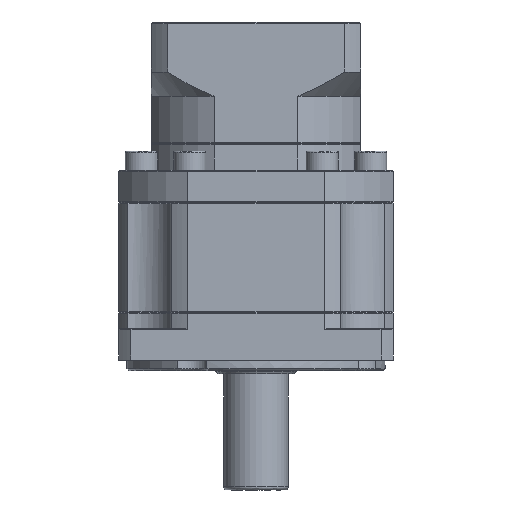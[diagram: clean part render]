
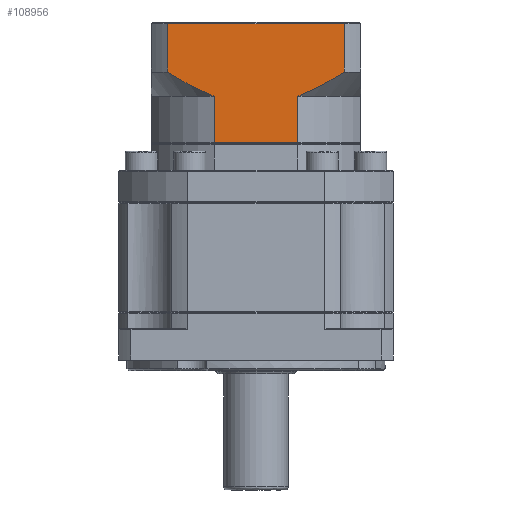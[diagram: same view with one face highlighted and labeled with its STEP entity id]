
A CAD part, front view. The second image highlights one B-rep face of the part: STEP entity #108956.
In plain terms, the highlighted planar face has unit normal (0, -1, 0).
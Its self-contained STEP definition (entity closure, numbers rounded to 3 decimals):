
#118 = CARTESIAN_POINT ( 'NONE',  ( 60.254, -25.976, 46.392 ) ) ;
#1869 = CARTESIAN_POINT ( 'NONE',  ( 0.368, -25.976, 68.303 ) ) ;
#2070 = CARTESIAN_POINT ( 'NONE',  ( 50.514, -25.976, 65.469 ) ) ;
#5987 = CARTESIAN_POINT ( 'NONE',  ( 40.744, -25.976, 60.803 ) ) ;
#8754 = DIRECTION ( 'NONE',  ( 1., 0., 0. ) ) ;
#10720 = CARTESIAN_POINT ( 'NONE',  ( 55.14, -25.976, 65.803 ) ) ;
#11039 = CARTESIAN_POINT ( 'NONE',  ( 45.735, -25.976, 62.89 ) ) ;
#13060 = ORIENTED_EDGE ( 'NONE', *, *, #32880, .F. ) ;
#15838 = ORIENTED_EDGE ( 'NONE', *, *, #92371, .F. ) ;
#16251 = ORIENTED_EDGE ( 'NONE', *, *, #95449, .T. ) ;
#16446 = VECTOR ( 'NONE', #28475, 1000. ) ;
#16805 = DIRECTION ( 'NONE',  ( 0., 1., 0. ) ) ;
#20047 = CARTESIAN_POINT ( 'NONE',  ( 40.744, -25.976, 60.803 ) ) ;
#22820 = EDGE_CURVE ( 'NONE', #55317, #70375, #106314, .T. ) ;
#23879 = CARTESIAN_POINT ( 'NONE',  ( 14.764, -25.976, 60.803 ) ) ;
#23947 = ORIENTED_EDGE ( 'NONE', *, *, #22820, .F. ) ;
#26451 = CARTESIAN_POINT ( 'NONE',  ( 12.222, -25.976, 61.82 ) ) ;
#28475 = DIRECTION ( 'NONE',  ( 0., 0., -1. ) ) ;
#31118 = AXIS2_PLACEMENT_3D ( 'NONE', #70259, #16805, #79185 ) ;
#31461 = VECTOR ( 'NONE', #32934, 1000. ) ;
#32880 = EDGE_CURVE ( 'NONE', #66108, #53503, #90808, .T. ) ;
#32934 = DIRECTION ( 'NONE',  ( 0., 0., 1. ) ) ;
#35513 = CARTESIAN_POINT ( 'NONE',  ( 9.744, -25.976, 62.943 ) ) ;
#37738 = CARTESIAN_POINT ( 'NONE',  ( 54.002, -25.976, 67.57 ) ) ;
#37742 = ORIENTED_EDGE ( 'NONE', *, *, #87905, .F. ) ;
#40328 = LINE ( 'NONE', #54264, #16446 ) ;
#41475 = CARTESIAN_POINT ( 'NONE',  ( 0.368, -25.976, 65.803 ) ) ;
#44298 = LINE ( 'NONE', #106325, #88809 ) ;
#44477 = CARTESIAN_POINT ( 'NONE',  ( 4.952, -25.976, 65.453 ) ) ;
#46511 = VECTOR ( 'NONE', #64254, 1000. ) ;
#49191 = ORIENTED_EDGE ( 'NONE', *, *, #49776, .T. ) ;
#49776 = EDGE_CURVE ( 'NONE', #55317, #54998, #44298, .T. ) ;
#50541 = CARTESIAN_POINT ( 'NONE',  ( 55.14, -25.976, 83.303 ) ) ;
#51894 = LINE ( 'NONE', #118, #99191 ) ;
#53472 = CARTESIAN_POINT ( 'NONE',  ( 0.368, -25.976, 68.303 ) ) ;
#53503 = VERTEX_POINT ( 'NONE', #1869 ) ;
#54264 = CARTESIAN_POINT ( 'NONE',  ( 40.744, -25.976, 60.803 ) ) ;
#54503 = CARTESIAN_POINT ( 'NONE',  ( 0.368, -25.976, 83.303 ) ) ;
#54998 = VERTEX_POINT ( 'NONE', #54503 ) ;
#55317 = VERTEX_POINT ( 'NONE', #50541 ) ;
#55348 = EDGE_CURVE ( 'NONE', #92632, #66108, #99748, .T. ) ;
#55679 = CARTESIAN_POINT ( 'NONE',  ( 52.85, -25.976, 66.854 ) ) ;
#56262 = CARTESIAN_POINT ( 'NONE',  ( 40.744, -25.976, 46.392 ) ) ;
#57954 = ORIENTED_EDGE ( 'NONE', *, *, #55348, .F. ) ;
#59877 = CARTESIAN_POINT ( 'NONE',  ( 14.764, -25.976, 46.392 ) ) ;
#60406 = B_SPLINE_CURVE_WITH_KNOTS ( 'NONE', 3,
 ( #72301, #37738, #55679, #2070, #64576, #11039, #73508, #20047 ),
 .UNSPECIFIED., .F., .F.,
 ( 4, 2, 2, 4 ),
 ( 0.059, 0.063, 0.067, 0.075 ),
 .UNSPECIFIED. ) ;
#64254 = DIRECTION ( 'NONE',  ( 0., 0., -1. ) ) ;
#64576 = CARTESIAN_POINT ( 'NONE',  ( 49.329, -25.976, 64.799 ) ) ;
#66108 = VERTEX_POINT ( 'NONE', #112580 ) ;
#69533 = VECTOR ( 'NONE', #103679, 1000. ) ;
#69879 = PLANE ( 'NONE',  #31118 ) ;
#70259 = CARTESIAN_POINT ( 'NONE',  ( 60.254, -25.976, 83.803 ) ) ;
#70375 = VERTEX_POINT ( 'NONE', #96309 ) ;
#70887 = CARTESIAN_POINT ( 'NONE',  ( 14.121, -25.976, 61.042 ) ) ;
#72301 = CARTESIAN_POINT ( 'NONE',  ( 55.14, -25.976, 68.303 ) ) ;
#73508 = CARTESIAN_POINT ( 'NONE',  ( 43.283, -25.976, 61.746 ) ) ;
#77945 = EDGE_CURVE ( 'NONE', #53503, #54998, #114069, .T. ) ;
#78724 = FACE_OUTER_BOUND ( 'NONE', #86957, .T. ) ;
#79185 = DIRECTION ( 'NONE',  ( -1., 0., 0. ) ) ;
#79816 = CARTESIAN_POINT ( 'NONE',  ( 14.764, -25.976, 60.803 ) ) ;
#83998 = VERTEX_POINT ( 'NONE', #56262 ) ;
#86957 = EDGE_LOOP ( 'NONE', ( #23947, #49191, #102023, #13060, #57954, #16251, #37742, #15838 ) ) ;
#87905 = EDGE_CURVE ( 'NONE', #104574, #83998, #40328, .T. ) ;
#88806 = CARTESIAN_POINT ( 'NONE',  ( 11.598, -25.976, 62.093 ) ) ;
#88809 = VECTOR ( 'NONE', #115247, 1000. ) ;
#90808 = B_SPLINE_CURVE_WITH_KNOTS ( 'NONE', 3,
 ( #79816, #70887, #97004, #26451, #88806, #35513, #97753, #44477, #106746, #53472 ),
 .UNSPECIFIED., .F., .F.,
 ( 4, 2, 2, 2, 4 ),
 ( 0.101, 0.104, 0.106, 0.11, 0.118 ),
 .UNSPECIFIED. ) ;
#92371 = EDGE_CURVE ( 'NONE', #70375, #104574, #60406, .T. ) ;
#92632 = VERTEX_POINT ( 'NONE', #59877 ) ;
#95449 = EDGE_CURVE ( 'NONE', #92632, #83998, #51894, .T. ) ;
#96309 = CARTESIAN_POINT ( 'NONE',  ( 55.14, -25.976, 68.303 ) ) ;
#97004 = CARTESIAN_POINT ( 'NONE',  ( 13.482, -25.976, 61.294 ) ) ;
#97753 = CARTESIAN_POINT ( 'NONE',  ( 8.532, -25.976, 63.548 ) ) ;
#99191 = VECTOR ( 'NONE', #8754, 1000. ) ;
#99748 = LINE ( 'NONE', #23879, #31461 ) ;
#102023 = ORIENTED_EDGE ( 'NONE', *, *, #77945, .F. ) ;
#103679 = DIRECTION ( 'NONE',  ( 0., 0., 1. ) ) ;
#104574 = VERTEX_POINT ( 'NONE', #5987 ) ;
#106314 = LINE ( 'NONE', #10720, #46511 ) ;
#106325 = CARTESIAN_POINT ( 'NONE',  ( 0.368, -25.976, 83.303 ) ) ;
#106746 = CARTESIAN_POINT ( 'NONE',  ( 2.637, -25.976, 66.841 ) ) ;
#108956 = ADVANCED_FACE ( 'NONE', ( #78724 ), #69879, .F. ) ;
#112580 = CARTESIAN_POINT ( 'NONE',  ( 14.764, -25.976, 60.803 ) ) ;
#114069 = LINE ( 'NONE', #41475, #69533 ) ;
#115247 = DIRECTION ( 'NONE',  ( -1., 0., 0. ) ) ;
